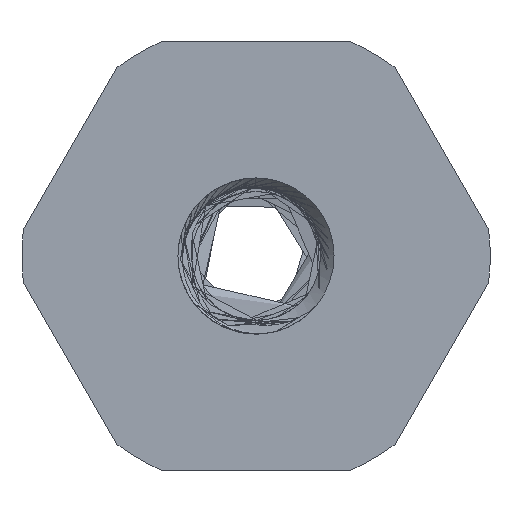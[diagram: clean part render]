
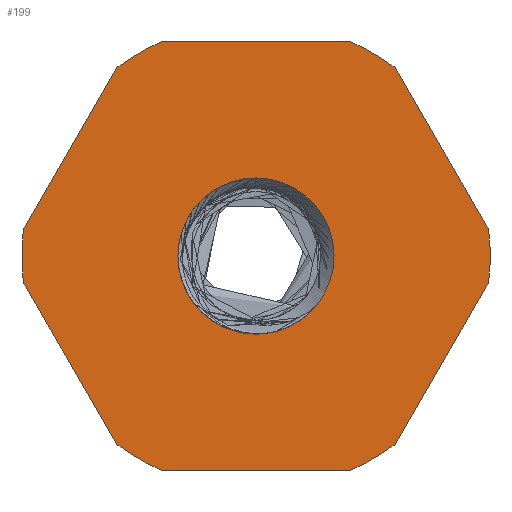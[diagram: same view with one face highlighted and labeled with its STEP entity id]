
A CAD part, front view. The second image highlights one B-rep face of the part: STEP entity #199.
In plain terms, the highlighted planar face has unit normal (0, -1, 0).
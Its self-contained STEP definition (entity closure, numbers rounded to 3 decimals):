
#199 = ADVANCED_FACE ( 'NONE', ( #2622, #8265 ), #3984, .F. ) ;
#225 = EDGE_CURVE ( 'NONE', #3502, #4495, #4822, .T. ) ;
#341 = AXIS2_PLACEMENT_3D ( 'NONE', #6732, #9609, #6602 ) ;
#449 = ORIENTED_EDGE ( 'NONE', *, *, #2644, .T. ) ;
#512 = ORIENTED_EDGE ( 'NONE', *, *, #4426, .F. ) ;
#582 = AXIS2_PLACEMENT_3D ( 'NONE', #4026, #3010, #1152 ) ;
#667 = ORIENTED_EDGE ( 'NONE', *, *, #10911, .F. ) ;
#734 = VECTOR ( 'NONE', #11261, 1000. ) ;
#805 = CARTESIAN_POINT ( 'NONE',  ( 0., 0., 2. ) ) ;
#819 = ORIENTED_EDGE ( 'NONE', *, *, #12237, .T. ) ;
#983 = AXIS2_PLACEMENT_3D ( 'NONE', #6414, #1596, #8229 ) ;
#1021 = LINE ( 'NONE', #10315, #734 ) ;
#1087 = EDGE_LOOP ( 'NONE', ( #4028, #5802, #8362, #512, #4056, #667, #3161, #2145, #8647, #5450, #11903, #1736 ) ) ;
#1143 = DIRECTION ( 'NONE',  ( 0., 0., 1. ) ) ;
#1152 = DIRECTION ( 'NONE',  ( 0., 0., 1. ) ) ;
#1187 = EDGE_CURVE ( 'NONE', #4495, #7697, #1021, .T. ) ;
#1197 = DIRECTION ( 'NONE',  ( 0., 1., 0. ) ) ;
#1233 = AXIS2_PLACEMENT_3D ( 'NONE', #6189, #10900, #7145 ) ;
#1269 = DIRECTION ( 'NONE',  ( 0., 0., 1. ) ) ;
#1404 = CARTESIAN_POINT ( 'NONE',  ( 0., 0., 0. ) ) ;
#1501 = CARTESIAN_POINT ( 'NONE',  ( 1.553, 0., -1.261 ) ) ;
#1596 = DIRECTION ( 'NONE',  ( 0., 1., 0. ) ) ;
#1655 = EDGE_CURVE ( 'NONE', #6100, #6849, #7128, .T. ) ;
#1721 = VERTEX_POINT ( 'NONE', #7573 ) ;
#1736 = ORIENTED_EDGE ( 'NONE', *, *, #10095, .F. ) ;
#1737 = AXIS2_PLACEMENT_3D ( 'NONE', #1404, #2365, #8968 ) ;
#1821 = VERTEX_POINT ( 'NONE', #3848 ) ;
#1831 = CARTESIAN_POINT ( 'NONE',  ( 2.398, 0., 5.5 ) ) ;
#1857 = CIRCLE ( 'NONE', #8388, 2. ) ;
#1883 = VECTOR ( 'NONE', #10536, 1000. ) ;
#1987 = CARTESIAN_POINT ( 'NONE',  ( 0., 0., 5.5 ) ) ;
#2145 = ORIENTED_EDGE ( 'NONE', *, *, #9511, .F. ) ;
#2300 = VERTEX_POINT ( 'NONE', #1831 ) ;
#2335 = LINE ( 'NONE', #4882, #1883 ) ;
#2364 = CARTESIAN_POINT ( 'NONE',  ( 2.398, 0., -5.5 ) ) ;
#2365 = DIRECTION ( 'NONE',  ( 0., 1., 0. ) ) ;
#2622 = FACE_BOUND ( 'NONE', #11138, .T. ) ;
#2644 = EDGE_CURVE ( 'NONE', #8354, #6100, #2791, .T. ) ;
#2695 = CARTESIAN_POINT ( 'NONE',  ( -5.962, 0., 0.673 ) ) ;
#2791 = CIRCLE ( 'NONE', #1233, 2. ) ;
#3003 = CARTESIAN_POINT ( 'NONE',  ( -3.564, 0., -4.827 ) ) ;
#3004 = DIRECTION ( 'NONE',  ( 0., 1., 0. ) ) ;
#3010 = DIRECTION ( 'NONE',  ( 0., 1., 0. ) ) ;
#3131 = DIRECTION ( 'NONE',  ( 0., 1., 0. ) ) ;
#3161 = ORIENTED_EDGE ( 'NONE', *, *, #7512, .F. ) ;
#3168 = EDGE_CURVE ( 'NONE', #5137, #3502, #7407, .T. ) ;
#3180 = CARTESIAN_POINT ( 'NONE',  ( -2.398, 0., 5.5 ) ) ;
#3502 = VERTEX_POINT ( 'NONE', #9514 ) ;
#3653 = LINE ( 'NONE', #1987, #10634 ) ;
#3848 = CARTESIAN_POINT ( 'NONE',  ( -2.398, 0., -5.5 ) ) ;
#3984 = PLANE ( 'NONE',  #4626 ) ;
#4026 = CARTESIAN_POINT ( 'NONE',  ( 0., 0., 0. ) ) ;
#4028 = ORIENTED_EDGE ( 'NONE', *, *, #4892, .F. ) ;
#4056 = ORIENTED_EDGE ( 'NONE', *, *, #6791, .F. ) ;
#4246 = CIRCLE ( 'NONE', #9315, 6. ) ;
#4310 = CARTESIAN_POINT ( 'NONE',  ( -5.962, 0., -0.673 ) ) ;
#4387 = DIRECTION ( 'NONE',  ( 0., 0., 1. ) ) ;
#4426 = EDGE_CURVE ( 'NONE', #11198, #9689, #7694, .T. ) ;
#4445 = DIRECTION ( 'NONE',  ( -0.5, 0., 0.866 ) ) ;
#4495 = VERTEX_POINT ( 'NONE', #4591 ) ;
#4591 = CARTESIAN_POINT ( 'NONE',  ( 5.962, 0., -0.673 ) ) ;
#4626 = AXIS2_PLACEMENT_3D ( 'NONE', #8701, #10638, #4942 ) ;
#4796 = VERTEX_POINT ( 'NONE', #3003 ) ;
#4822 = CIRCLE ( 'NONE', #582, 6. ) ;
#4882 = CARTESIAN_POINT ( 'NONE',  ( -4.763, 0., 2.75 ) ) ;
#4892 = EDGE_CURVE ( 'NONE', #8699, #2300, #3653, .T. ) ;
#4942 = DIRECTION ( 'NONE',  ( 0., 0., 1. ) ) ;
#5079 = CARTESIAN_POINT ( 'NONE',  ( 0., 0., 0. ) ) ;
#5137 = VERTEX_POINT ( 'NONE', #7501 ) ;
#5163 = VECTOR ( 'NONE', #10396, 1000. ) ;
#5205 = VERTEX_POINT ( 'NONE', #805 ) ;
#5404 = EDGE_CURVE ( 'NONE', #9689, #1721, #2335, .T. ) ;
#5450 = ORIENTED_EDGE ( 'NONE', *, *, #225, .F. ) ;
#5487 = DIRECTION ( 'NONE',  ( 0., 0., 1. ) ) ;
#5494 = CARTESIAN_POINT ( 'NONE',  ( -4.763, 0., -2.75 ) ) ;
#5520 = AXIS2_PLACEMENT_3D ( 'NONE', #5079, #3131, #1269 ) ;
#5626 = VECTOR ( 'NONE', #4445, 1000. ) ;
#5645 = CARTESIAN_POINT ( 'NONE',  ( 4.763, 0., 2.75 ) ) ;
#5802 = ORIENTED_EDGE ( 'NONE', *, *, #8419, .F. ) ;
#5980 = DIRECTION ( 'NONE',  ( 0., 0., 1. ) ) ;
#6100 = VERTEX_POINT ( 'NONE', #7608 ) ;
#6189 = CARTESIAN_POINT ( 'NONE',  ( 0., 0., 0. ) ) ;
#6414 = CARTESIAN_POINT ( 'NONE',  ( 0., 0., 0. ) ) ;
#6602 = DIRECTION ( 'NONE',  ( 0., 0., 1. ) ) ;
#6619 = AXIS2_PLACEMENT_3D ( 'NONE', #9099, #11999, #4387 ) ;
#6732 = CARTESIAN_POINT ( 'NONE',  ( 0., 0., 0. ) ) ;
#6791 = EDGE_CURVE ( 'NONE', #4796, #11198, #8587, .T. ) ;
#6849 = VERTEX_POINT ( 'NONE', #7612 ) ;
#7128 = CIRCLE ( 'NONE', #983, 2. ) ;
#7145 = DIRECTION ( 'NONE',  ( 0., 0., 1. ) ) ;
#7168 = VERTEX_POINT ( 'NONE', #2364 ) ;
#7225 = CIRCLE ( 'NONE', #6619, 6. ) ;
#7407 = LINE ( 'NONE', #5645, #8139 ) ;
#7481 = DIRECTION ( 'NONE',  ( 0., 1., 0. ) ) ;
#7497 = CARTESIAN_POINT ( 'NONE',  ( 3.564, 0., -4.827 ) ) ;
#7501 = CARTESIAN_POINT ( 'NONE',  ( 3.564, 0., 4.827 ) ) ;
#7512 = EDGE_CURVE ( 'NONE', #7168, #1821, #11530, .T. ) ;
#7565 = CARTESIAN_POINT ( 'NONE',  ( 0., 0., 0. ) ) ;
#7573 = CARTESIAN_POINT ( 'NONE',  ( -3.564, 0., 4.827 ) ) ;
#7608 = CARTESIAN_POINT ( 'NONE',  ( 0.239, 0., -1.986 ) ) ;
#7612 = CARTESIAN_POINT ( 'NONE',  ( 0., 0., -2. ) ) ;
#7694 = CIRCLE ( 'NONE', #1737, 6. ) ;
#7697 = VERTEX_POINT ( 'NONE', #7497 ) ;
#8122 = CIRCLE ( 'NONE', #5520, 6. ) ;
#8139 = VECTOR ( 'NONE', #11392, 1000. ) ;
#8229 = DIRECTION ( 'NONE',  ( 0., 0., 1. ) ) ;
#8265 = FACE_OUTER_BOUND ( 'NONE', #1087, .T. ) ;
#8345 = CARTESIAN_POINT ( 'NONE',  ( 0., 0., -5.5 ) ) ;
#8354 = VERTEX_POINT ( 'NONE', #1501 ) ;
#8362 = ORIENTED_EDGE ( 'NONE', *, *, #5404, .F. ) ;
#8388 = AXIS2_PLACEMENT_3D ( 'NONE', #8739, #3004, #1143 ) ;
#8419 = EDGE_CURVE ( 'NONE', #1721, #8699, #4246, .T. ) ;
#8524 = ORIENTED_EDGE ( 'NONE', *, *, #1655, .T. ) ;
#8587 = LINE ( 'NONE', #5494, #5626 ) ;
#8616 = DIRECTION ( 'NONE',  ( 1., 0., 0. ) ) ;
#8647 = ORIENTED_EDGE ( 'NONE', *, *, #1187, .F. ) ;
#8699 = VERTEX_POINT ( 'NONE', #3180 ) ;
#8701 = CARTESIAN_POINT ( 'NONE',  ( 0., 0., 0. ) ) ;
#8739 = CARTESIAN_POINT ( 'NONE',  ( 0., 0., 0. ) ) ;
#8968 = DIRECTION ( 'NONE',  ( 0., 0., 1. ) ) ;
#9095 = ORIENTED_EDGE ( 'NONE', *, *, #11757, .T. ) ;
#9099 = CARTESIAN_POINT ( 'NONE',  ( 0., 0., 0. ) ) ;
#9314 = CIRCLE ( 'NONE', #341, 6. ) ;
#9315 = AXIS2_PLACEMENT_3D ( 'NONE', #7565, #7481, #5487 ) ;
#9511 = EDGE_CURVE ( 'NONE', #7697, #7168, #7225, .T. ) ;
#9514 = CARTESIAN_POINT ( 'NONE',  ( 5.962, 0., 0.673 ) ) ;
#9609 = DIRECTION ( 'NONE',  ( 0., 1., 0. ) ) ;
#9689 = VERTEX_POINT ( 'NONE', #2695 ) ;
#10095 = EDGE_CURVE ( 'NONE', #2300, #5137, #8122, .T. ) ;
#10315 = CARTESIAN_POINT ( 'NONE',  ( 4.763, 0., -2.75 ) ) ;
#10396 = DIRECTION ( 'NONE',  ( -1., 0., 0. ) ) ;
#10536 = DIRECTION ( 'NONE',  ( 0.5, 0., 0.866 ) ) ;
#10634 = VECTOR ( 'NONE', #8616, 1000. ) ;
#10638 = DIRECTION ( 'NONE',  ( 0., 1., 0. ) ) ;
#10900 = DIRECTION ( 'NONE',  ( 0., 1., 0. ) ) ;
#10911 = EDGE_CURVE ( 'NONE', #1821, #4796, #9314, .T. ) ;
#11093 = AXIS2_PLACEMENT_3D ( 'NONE', #11695, #1197, #5980 ) ;
#11138 = EDGE_LOOP ( 'NONE', ( #449, #8524, #819, #9095 ) ) ;
#11198 = VERTEX_POINT ( 'NONE', #4310 ) ;
#11261 = DIRECTION ( 'NONE',  ( -0.5, 0., -0.866 ) ) ;
#11392 = DIRECTION ( 'NONE',  ( 0.5, 0., -0.866 ) ) ;
#11530 = LINE ( 'NONE', #8345, #5163 ) ;
#11695 = CARTESIAN_POINT ( 'NONE',  ( 0., 0., 0. ) ) ;
#11757 = EDGE_CURVE ( 'NONE', #5205, #8354, #12110, .T. ) ;
#11903 = ORIENTED_EDGE ( 'NONE', *, *, #3168, .F. ) ;
#11999 = DIRECTION ( 'NONE',  ( 0., 1., 0. ) ) ;
#12110 = CIRCLE ( 'NONE', #11093, 2. ) ;
#12237 = EDGE_CURVE ( 'NONE', #6849, #5205, #1857, .T. ) ;
